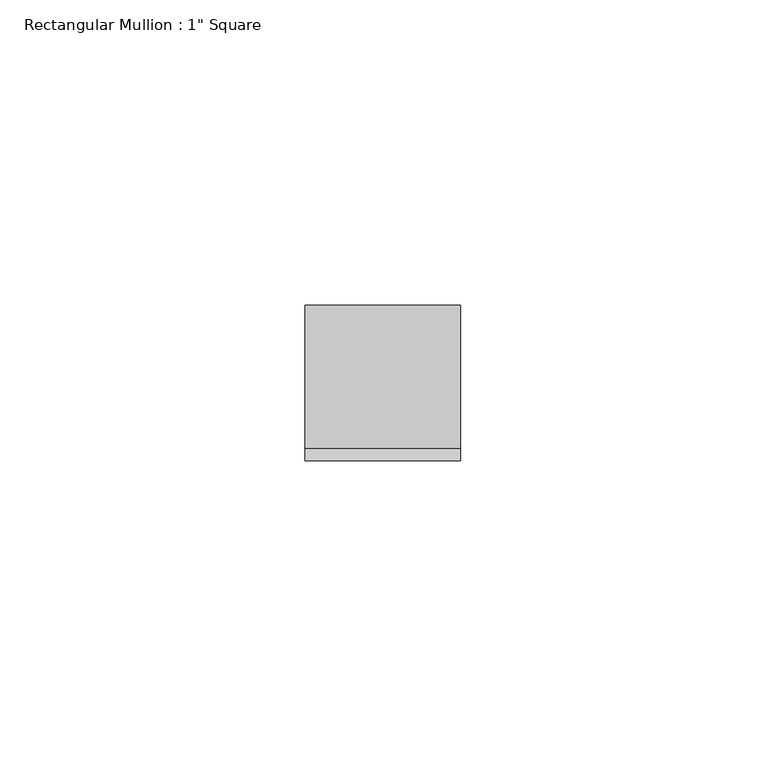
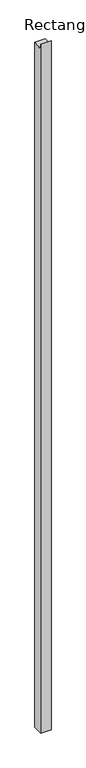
"""IFC4 building model written with IfcOpenShell, lengths in millimetres: member geometry."""

from ifc_helpers import new_model, si_unit, frame, origin, place, context, project, spatial, polyline, outline, extrude, source, transform, mapped, element, save


def member_44859e0b(model_context):
    return source(origin(), model_context, "Body", "SweptSolid", [
        extrude(outline(polyline([(-12.7, 11.7414453), (-10.6498724, -1.7623724), (12.7, 1.782567), (12.7, -1791.9), (-12.7, -1791.9), (-12.7, 11.7414453)])), frame((-25.4, 0.0, 0.0), z_axis=(1.0, 0.0, 0.0), x_axis=(0.0, 1.0, 0.0)), (0.0, 0.0, 1.0), 25.4),
    ])


if __name__ == "__main__":
    model = new_model("IFC4")
    model_context = context("Model", 3, world=origin())
    ifc_project = project(units=[si_unit("LENGTHUNIT", "METRE", prefix="MILLI")], contexts=[model_context])
    site = spatial("IfcSite", under=ifc_project)
    building = spatial("IfcBuilding", under=site)
    placement = place(None, origin())
    member_shape = member_44859e0b(model_context)
    element("IfcMember", 1, ObjectType="Rectangular Mullion : 1\" Square", at=placement, inside=building, context=model_context, shape_type="MappedRepresentation", body=[
        mapped(member_shape, transform((0.0, 0.0, 0.0), x_axis=(1.0, 0.0, 0.0), y_axis=(0.0, 1.0, 0.0), z_axis=(0.0, 0.0, 1.0))),
    ])
    save(model, "model.ifc")
